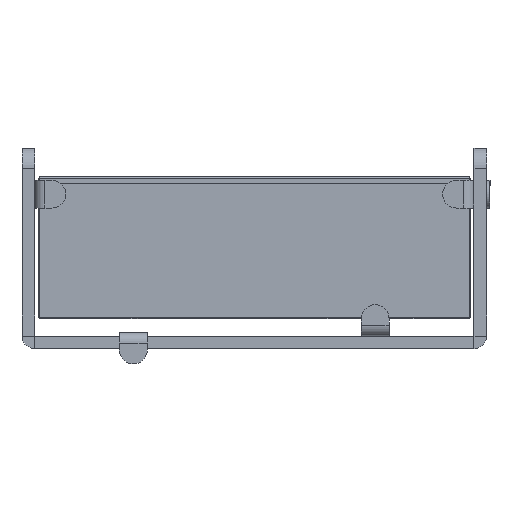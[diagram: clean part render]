
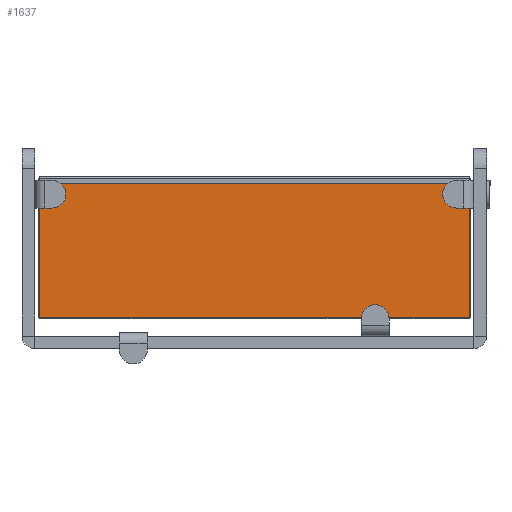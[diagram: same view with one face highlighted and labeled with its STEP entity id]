
A CAD part, front view. The second image highlights one B-rep face of the part: STEP entity #1637.
In plain terms, the highlighted planar face has unit normal (0, -1, 0) as drawn and (0, 0, 1) by its records, which use the part's own axes.
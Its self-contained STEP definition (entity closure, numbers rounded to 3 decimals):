
#310 = DIRECTION ( 'NONE',  ( 0., 1., 0. ) ) ;
#447 = EDGE_CURVE ( 'NONE', #11634, #9511, #9772, .T. ) ;
#761 = DIRECTION ( 'NONE',  ( 0., -1., 0. ) ) ;
#1335 = LINE ( 'NONE', #2634, #12459 ) ;
#1635 = ORIENTED_EDGE ( 'NONE', *, *, #2387, .F. ) ;
#1637 = ADVANCED_FACE ( 'NONE', ( #12025 ), #5997, .F. ) ;
#1674 = DIRECTION ( 'NONE',  ( -1., 0., 0. ) ) ;
#2387 = EDGE_CURVE ( 'NONE', #4654, #10002, #9104, .T. ) ;
#2634 = CARTESIAN_POINT ( 'NONE',  ( 0., 200., 0. ) ) ;
#2934 = CARTESIAN_POINT ( 'NONE',  ( 619.8, 0., 0. ) ) ;
#3337 = CARTESIAN_POINT ( 'NONE',  ( 1.7, 0., 0. ) ) ;
#3407 = LINE ( 'NONE', #9448, #9810 ) ;
#3996 = CARTESIAN_POINT ( 'NONE',  ( 619.8, 200., 0. ) ) ;
#4654 = VERTEX_POINT ( 'NONE', #12764 ) ;
#5297 = ORIENTED_EDGE ( 'NONE', *, *, #11141, .T. ) ;
#5476 = DIRECTION ( 'NONE',  ( 1., 0., 0. ) ) ;
#5917 = VECTOR ( 'NONE', #761, 1000. ) ;
#5997 = PLANE ( 'NONE',  #7236 ) ;
#7236 = AXIS2_PLACEMENT_3D ( 'NONE', #10159, #8839, #1674 ) ;
#7651 = CARTESIAN_POINT ( 'NONE',  ( 1.7, 0., 0. ) ) ;
#8839 = DIRECTION ( 'NONE',  ( 0., 0., -1. ) ) ;
#9104 = LINE ( 'NONE', #3996, #5917 ) ;
#9448 = CARTESIAN_POINT ( 'NONE',  ( 0., 0., 0. ) ) ;
#9511 = VERTEX_POINT ( 'NONE', #12412 ) ;
#9772 = LINE ( 'NONE', #3337, #12388 ) ;
#9810 = VECTOR ( 'NONE', #5476, 1000. ) ;
#10002 = VERTEX_POINT ( 'NONE', #2934 ) ;
#10159 = CARTESIAN_POINT ( 'NONE',  ( 0., 0., 0. ) ) ;
#10245 = ORIENTED_EDGE ( 'NONE', *, *, #12009, .T. ) ;
#10488 = EDGE_LOOP ( 'NONE', ( #11283, #10245, #1635, #5297 ) ) ;
#11141 = EDGE_CURVE ( 'NONE', #4654, #9511, #1335, .T. ) ;
#11283 = ORIENTED_EDGE ( 'NONE', *, *, #447, .F. ) ;
#11634 = VERTEX_POINT ( 'NONE', #7651 ) ;
#11818 = DIRECTION ( 'NONE',  ( -1., 0., 0. ) ) ;
#12009 = EDGE_CURVE ( 'NONE', #11634, #10002, #3407, .T. ) ;
#12025 = FACE_OUTER_BOUND ( 'NONE', #10488, .T. ) ;
#12388 = VECTOR ( 'NONE', #310, 1000. ) ;
#12412 = CARTESIAN_POINT ( 'NONE',  ( 1.7, 200., 0. ) ) ;
#12459 = VECTOR ( 'NONE', #11818, 1000. ) ;
#12764 = CARTESIAN_POINT ( 'NONE',  ( 619.8, 200., 0. ) ) ;
